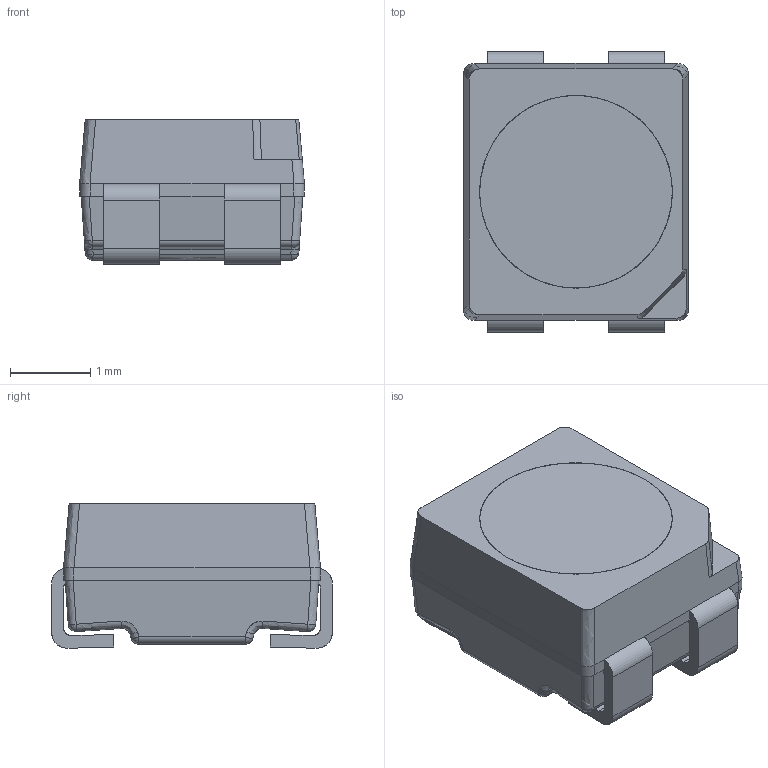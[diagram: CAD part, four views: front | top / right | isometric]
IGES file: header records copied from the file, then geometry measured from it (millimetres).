
Start section: SolidWorks IGES file using analytic representation for surfaces
Global section: file name: C:\Users\user\Desktop\SW22\ヶ蚾陬腑3D恅璃\LWBB.IGS; native system: SolidWorks 2022; preprocessor: SolidWorks 2022; author: user; date: 240304.023411; units: millimetre
Bounding box: 2.8 x 3.5 x 1.8 mm (x, y, z)
Surface area: 84.9 mm2 (no closed solid volume)
Topology: 0 solids, 0 shells, 390 faces, 10765 edges, 10755 vertices
Faces by surface type: revolution 205, bspline 185
